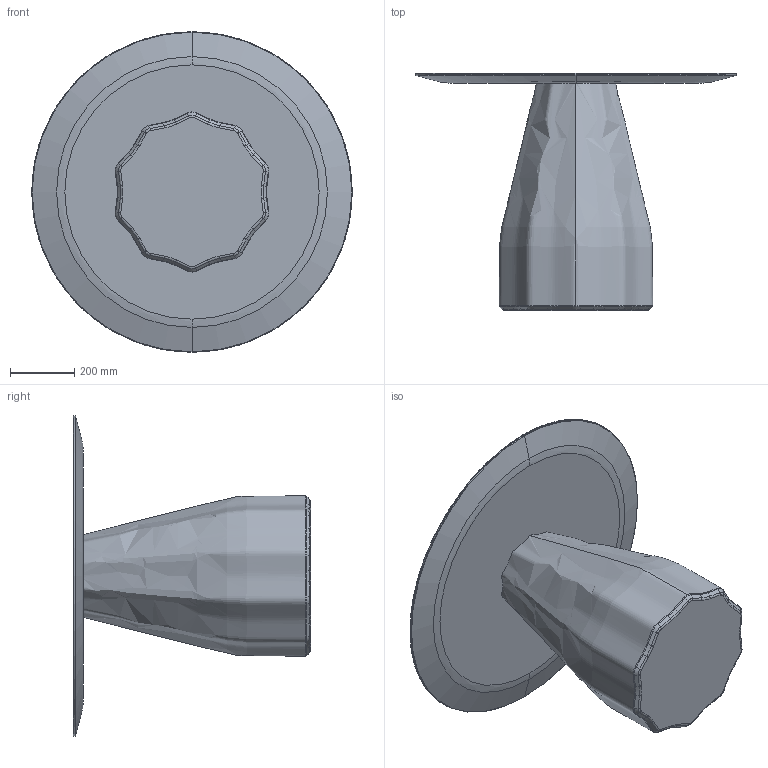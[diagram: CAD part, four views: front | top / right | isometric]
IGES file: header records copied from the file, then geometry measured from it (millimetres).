
Start section: SolidWorks IGES file using analytic representation for surfaces
Global section: file name: Z:\01-VICCARBE\VICCARBE TECNICO 2018\6.-Studio VCCB\Otros\Burin\Modelado\WEB\Nueva carpeta\BurinH74D100.IGS; native system: SolidWorks 2013; preprocessor: SolidWorks 2013; author: Usuario; date: 190219.125159; units: millimetre
Bounding box: 1000 x 740 x 1000 mm (x, y, z)
Volume: 113467137.9 mm3; surface area: 2749818 mm2
Topology: 2 solids, 2 shells, 136 faces, 348 edges, 216 vertices
Faces by surface type: bspline 122, revolution 10, plane 4
